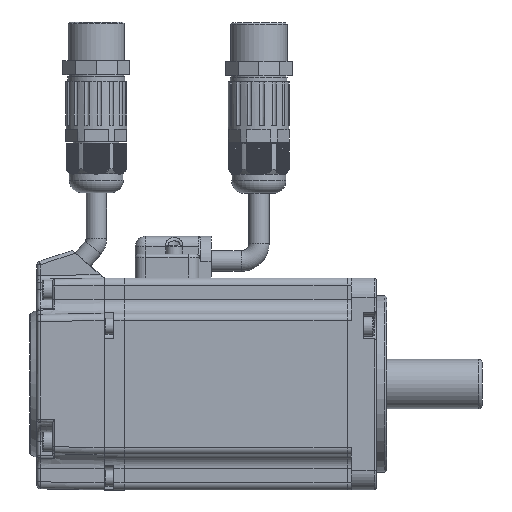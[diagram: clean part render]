
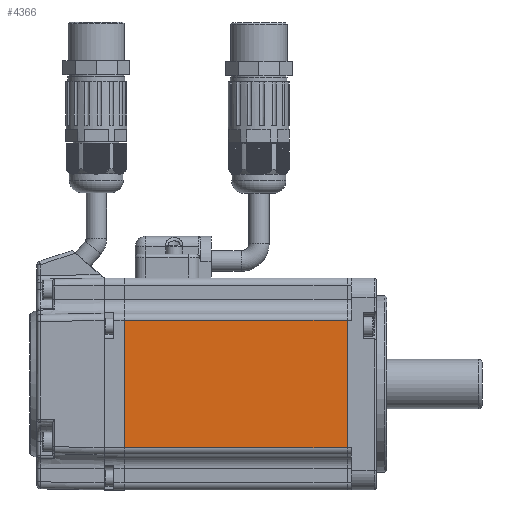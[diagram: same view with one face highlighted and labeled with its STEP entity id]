
A CAD part, left-side view. The second image highlights one B-rep face of the part: STEP entity #4366.
In plain terms, the highlighted planar face has unit normal (-1, 0, 0).
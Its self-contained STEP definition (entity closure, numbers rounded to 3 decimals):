
#2482=FACE_OUTER_BOUND('',#13911,.T.);
#4366=ADVANCED_FACE('',(#2482),#6500,.F.);
#6500=PLANE('',#36196);
#7929=LINE('',#48356,#10614);
#7941=LINE('',#48402,#10626);
#7942=LINE('',#48404,#10627);
#7968=LINE('',#48484,#10653);
#10614=VECTOR('',#39330,1.);
#10626=VECTOR('',#39372,1.);
#10627=VECTOR('',#39375,1.);
#10653=VECTOR('',#39469,1.);
#13911=EDGE_LOOP('',(#16445,#16446,#16447,#16448));
#16445=ORIENTED_EDGE('',*,*,#29983,.T.);
#16446=ORIENTED_EDGE('',*,*,#29959,.F.);
#16447=ORIENTED_EDGE('',*,*,#29982,.T.);
#16448=ORIENTED_EDGE('',*,*,#30021,.F.);
#26643=VERTEX_POINT('',#48355);
#26644=VERTEX_POINT('',#48357);
#26662=VERTEX_POINT('',#48401);
#26663=VERTEX_POINT('',#48405);
#29959=EDGE_CURVE('',#26643,#26644,#7929,.T.);
#29982=EDGE_CURVE('',#26643,#26662,#7941,.T.);
#29983=EDGE_CURVE('',#26663,#26644,#7942,.T.);
#30021=EDGE_CURVE('',#26663,#26662,#7968,.T.);
#36196=AXIS2_PLACEMENT_3D('',#48485,#39470,#39471);
#39330=DIRECTION('',(0.,0.,-1.));
#39372=DIRECTION('',(0.,1.,0.));
#39375=DIRECTION('',(0.,-1.,0.));
#39469=DIRECTION('',(0.,0.,1.));
#39470=DIRECTION('',(1.,0.,0.));
#39471=DIRECTION('',(0.,-1.,0.));
#48355=CARTESIAN_POINT('',(-115.303,95.19,32.521));
#48356=CARTESIAN_POINT('',(-115.303,95.19,14.521));
#48357=CARTESIAN_POINT('',(-115.303,95.19,-3.479));
#48401=CARTESIAN_POINT('',(-115.303,158.291,32.521));
#48402=CARTESIAN_POINT('',(-115.303,144.19,32.521));
#48404=CARTESIAN_POINT('',(-115.303,144.19,-3.479));
#48405=CARTESIAN_POINT('',(-115.303,158.291,-3.479));
#48484=CARTESIAN_POINT('',(-115.303,158.291,14.521));
#48485=CARTESIAN_POINT('',(-115.303,144.19,-15.479));
